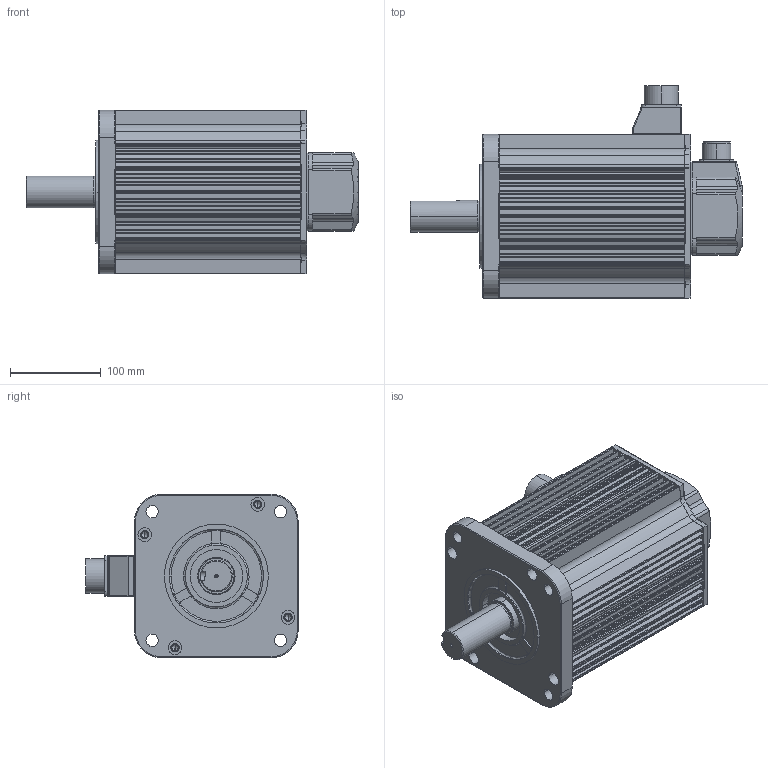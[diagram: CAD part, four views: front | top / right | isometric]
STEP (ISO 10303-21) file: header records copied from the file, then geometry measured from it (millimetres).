
FILE_DESCRIPTION (( 'STEP AP203' ), '1' );
FILE_NAME ('KANH-50B(BR).STEP', '2026-09-12T02:58:30', ( '' ), ( '' ), 'SwSTEP 2.0', 'SolidWorks 2023', '' );
FILE_SCHEMA (( 'CONFIG_CONTROL_DESIGN' ));
Length unit declared in the file: millimetre
Products named in the file (11): MS3102A 20-29P; Ø35-KEY10X50; □180-206.5mm(5.0kW,BR,MS24); 1005052200 ENCODER COVER; MS3102A 24_표준; 10050907 RUBBER SEAL_MS22 or MS24; KANH-50B(BR); □180 FLANGE; □180 BRACKET_BR; 10050908 CONNECTOR BOX_MS22 or MS24; 10050523 GASKET_돌출형
Assembly tree (10 placements, depth 2):
  KANH-50B(BR)
    Ø35-KEY10X50
    □180 FLANGE
    □180-206.5mm(5.0kW,BR,MS24)
    □180 BRACKET_BR
    1005052200 ENCODER COVER
    10050523 GASKET_돌출형
    MS3102A 20-29P
    10050907 RUBBER SEAL_MS22 or MS24
    10050908 CONNECTOR BOX_MS22 or MS24
    MS3102A 24_표준
Bounding box: 365.2 x 233.62 x 180 mm (x, y, z)
Volume: 1769379.2 mm3; surface area: 627988.1 mm2
Topology: 10 solids, 10 shells, 1764 faces, 4830 edges, 3140 vertices
Faces by surface type: cylinder 912, plane 605, torus 122, cone 88, bspline 35, sphere 2
Entity records: 60348 total; most frequent: CARTESIAN_POINT 13359, DIRECTION 10018, ORIENTED_EDGE 9588, EDGE_CURVE 4794, AXIS2_PLACEMENT_3D 3855, VERTEX_POINT 3140, LINE 2308, VECTOR 2308
